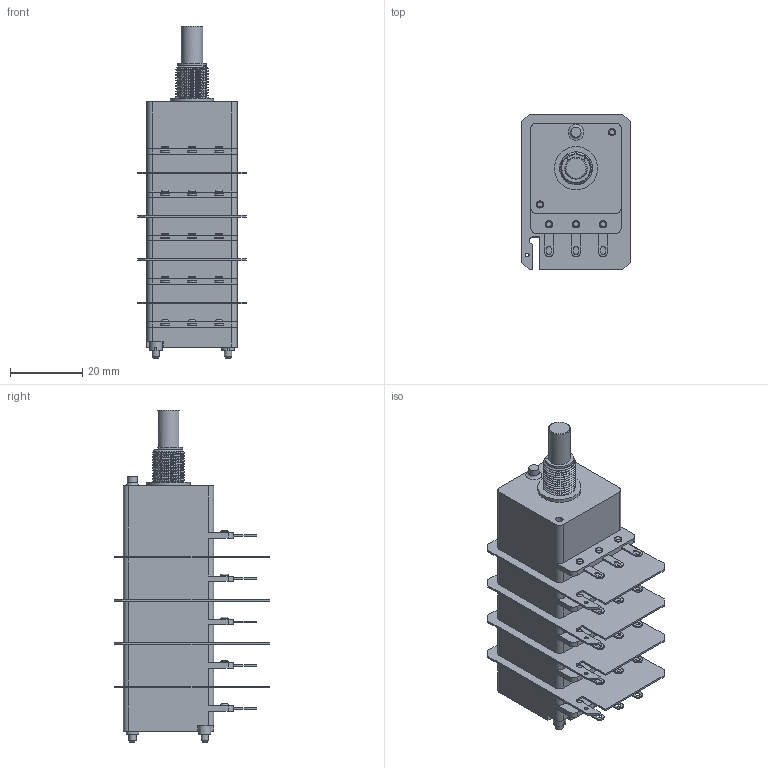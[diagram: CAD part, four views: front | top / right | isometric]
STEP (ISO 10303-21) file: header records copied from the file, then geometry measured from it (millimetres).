
FILE_DESCRIPTION(('FreeCAD Model'),'2;1');
FILE_NAME('Open CASCADE Shape Model','2026-07-15T10:03:48',(''),(''), 'Open CASCADE STEP processor 7.8','FreeCAD','Unknown');
FILE_SCHEMA(('AUTOMOTIVE_DESIGN { 1 0 10303 214 1 1 1 1 }'));
Length unit declared in the file: millimetre
Products named in the file (1): 5CP25XX-S-6R20
Bounding box: 30 x 43 x 92 mm (x, y, z)
Volume: 45147.7 mm3; surface area: 18685.7 mm2
Topology: 1 solids, 38 shells, 592 faces, 1353 edges, 893 vertices
Faces by surface type: plane 339, cylinder 192, bspline 38, torus 17, cone 6
Full cylindrical faces by diameter (mm): 1 x4, 1.9 x2, 2 x39, 2.2 x26, 2.5 x4, 2.8 x1, 3.5 x2, 4.4 x1, 4.5 x5, 5.4 x1, 6 x1, 6.05 x1, 8 x1, 9 x4, 12 x1
Entity records: 22303 total; most frequent: CARTESIAN_POINT 7171, DIRECTION 2847, ORIENTED_EDGE 2704, EDGE_CURVE 1352, AXIS2_PLACEMENT_3D 1050, VERTEX_POINT 893, LINE 747, VECTOR 747
